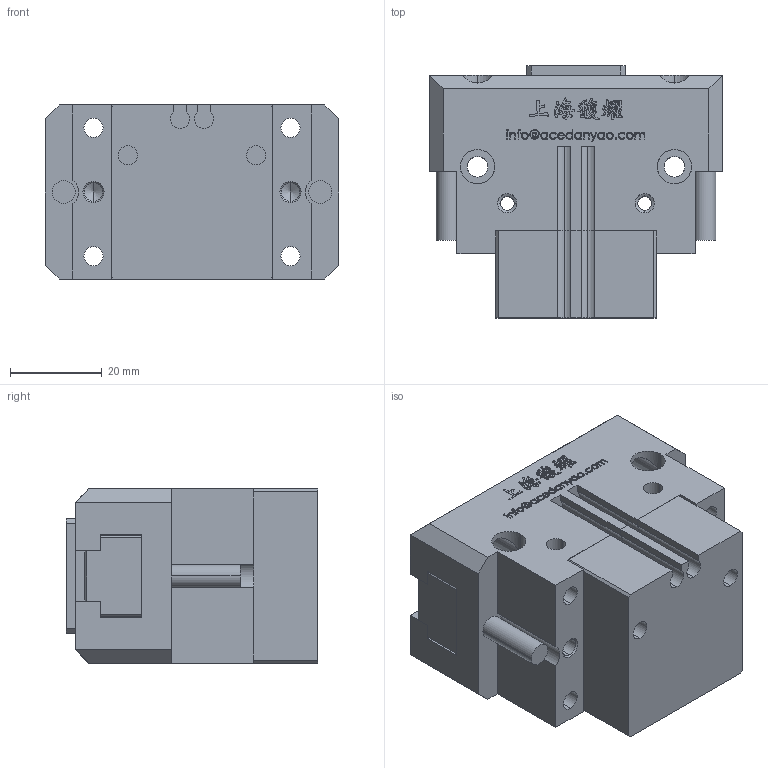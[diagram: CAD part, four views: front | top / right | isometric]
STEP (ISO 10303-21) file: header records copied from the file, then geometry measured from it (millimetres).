
FILE_DESCRIPTION (( 'STEP AP203' ), '1' );
FILE_NAME ('OPP2-64-C1-MC&MA-原始檔-組合-W106.04.18.STEP', '2017-04-18T08:40:48', ( 'DanyaoCAD' ), ( '' ), 'SwSTEP 2.0', 'SolidWorks 2016', '' );
FILE_SCHEMA (( 'CONFIG_CONTROL_DESIGN' ));
Length unit declared in the file: millimetre
Products named in the file (5): Corpo; Griffa; Fondello; Coperchio; OPP2-64-C1-MC&MA-原始檔-組合-W106.04.18
Assembly tree (5 placements, depth 2):
  OPP2-64-C1-MC&MA-原始檔-組合-W106.04.18
    Corpo
    Griffa  x2
    Fondello
    Coperchio
Bounding box: 64 x 55 x 38 mm (x, y, z)
Volume: 93285.6 mm3; surface area: 32150.9 mm2
Topology: 5 solids, 5 shells, 1079 faces, 3017 edges, 1980 vertices
Faces by surface type: bspline 640, plane 286, cylinder 103, cone 50
Entity records: 50110 total; most frequent: CARTESIAN_POINT 27293, ORIENTED_EDGE 5774, EDGE_CURVE 2887, DIRECTION 2567, VERTEX_POINT 1906, LINE 1359, VECTOR 1359, B_SPLINE_CURVE_WITH_KNOTS 1302
